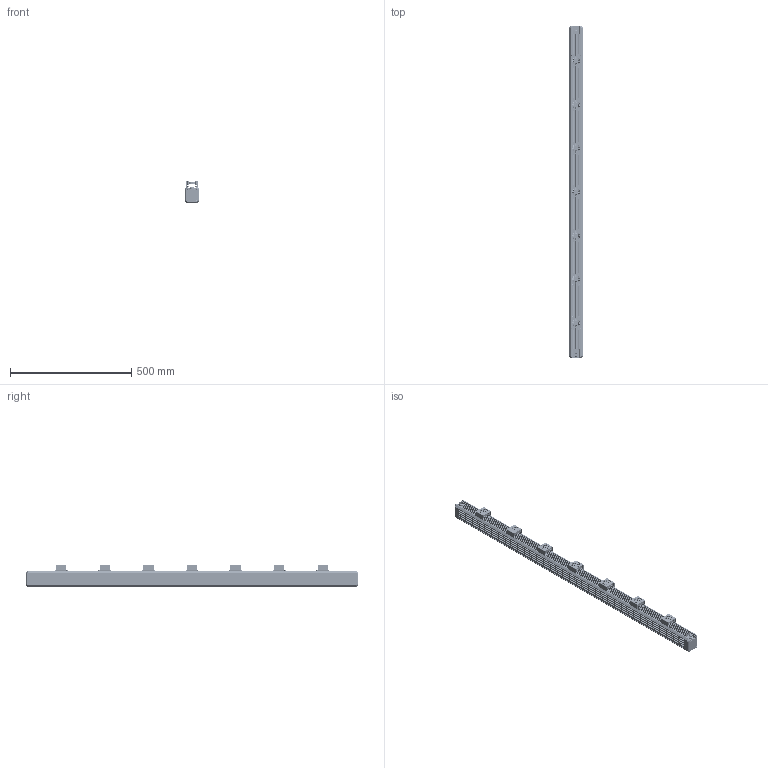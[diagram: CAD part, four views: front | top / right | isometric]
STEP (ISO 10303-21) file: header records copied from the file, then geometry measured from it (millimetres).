
FILE_DESCRIPTION((''),'2;1');
FILE_NAME('MV-LTDS-H-1300-W_ASM_1_ASM','2025-06-03T15:26:01',('huguozhe'),(''),'CREO PARAMETRIC BY PTC INC, 2020044','CREO PARAMETRIC BY PTC INC, 2020044','');
FILE_SCHEMA(('AUTOMOTIVE_DESIGN { 1 0 10303 214 1 1 1 1 }'));
Products named in the file (25): DE-15-000661_1; DE-15-000660_ASM_1_ASM; DE-15-000663_1; DE-15-000662_ASM_1_ASM; SC-HSCM3X6B-GB70_1_1; DE-12-001690_1; SC-AM3X10NL-BNI-SCM435-GB70_1_1; SC-HSCM3X8-SUS316_1; DE-11-019911_1; 8002-CLS-M3-1_1; DE-11-019911_ASM_1_ASM; 101800527_01_1; 101800527_02_1; 101800527_MGA4012HB-O10_ASM_1_ASM; SC-ASFM3X14NL-BNI-SUS316L_1; NUT-M4-GB6170_1; DE-14-015560_1_1_1; DE-14-016113_ASM_1_1_ASM_1_ASM; DE-14-016113_ASM_ASM_1_ASM; 19M-H_2_1_1_1; 19M-8H-8P_1_1; 19M-8H_ASM_1_ASM_1_ASM; 19M-8H_ASM_ASM_1_ASM; DE-14-016113-19M-8H_ASM; MV-LTDS-H-1300-W_ASM_1_ASM
Assembly tree (128 placements, depth 5):
  MV-LTDS-H-1300-W_ASM_1_ASM
    DE-15-000660_ASM_1_ASM
      DE-15-000661_1
    DE-15-000662_ASM_1_ASM  x2
      DE-15-000663_1
    SC-HSCM3X6B-GB70_1_1  x12
    DE-12-001690_1
    SC-AM3X10NL-BNI-SCM435-GB70_1_1  x36
    SC-HSCM3X8-SUS316_1  x8
    DE-11-019911_ASM_1_ASM  x7
      DE-11-019911_1
      8002-CLS-M3-1_1
    101800527_MGA4012HB-O10_ASM_1_ASM  x7
      101800527_01_1
      101800527_02_1
    SC-ASFM3X14NL-BNI-SUS316L_1  x28
    NUT-M4-GB6170_1  x8
    DE-14-016113-19M-8H_ASM  x2
      DE-14-016113_ASM_ASM_1_ASM
        DE-14-016113_ASM_1_1_ASM_1_ASM
          DE-14-015560_1_1_1
      19M-8H_ASM_ASM_1_ASM
        19M-8H_ASM_1_ASM_1_ASM
          19M-H_2_1_1_1
          19M-8H-8P_1_1
Bounding box: 58 x 1370 x 90.6 mm (x, y, z)
Volume: 4212311.5 mm3; surface area: 1164797.2 mm2
Topology: 151 solids, 419 shells, 8207 faces, 21932 edges, 14161 vertices
Faces by surface type: plane 3715, cylinder 2922, cone 1056, torus 406, bspline 76, sphere 32
Entity records: 88457 total; most frequent: CARTESIAN_POINT 28070, DIRECTION 11815, ORIENTED_EDGE 10176, EDGE_CURVE 5306, AXIS2_PLACEMENT_3D 4629, VERTEX_POINT 3531, VECTOR 2557, LINE 2557
